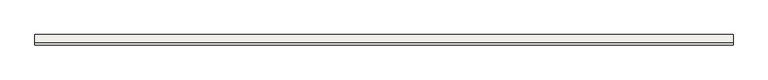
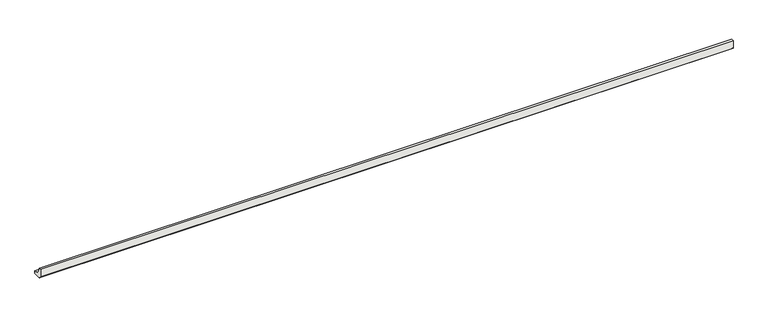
"""IFC4 building model written with IfcOpenShell, lengths in millimetres: slab geometry, ROSA GRES_112 : Pieza 112_Aqua_Plomo_Liso."""

import ifcopenshell
import ifcopenshell.guid

model = None  # the IFC model being written
_history = None  # IfcOwnerHistory: only IFC2X3 demands one
_inside = {}  # id of a spatial element -> (the spatial element, [elements in it])
_under = {}  # id of a project, library or spatial element -> (it, [spatial elements below it])
_declared = {}  # id of a project -> (the project, [libraries it declares])
_typed = {}  # id of a type object -> (the type object, [elements of that type])
_made_of = {}  # id of a material, layer set ... -> (it, [elements and type objects made of it])


def new_model(schema):
    """Start an empty IFC model of exactly this schema.

    Asked for "IFC4X3", IfcOpenShell would pick the latest addendum, in which some entities
    have other attributes; the version numbers below select the first issue.
    IFC2X3 requires an IfcOwnerHistory on every rooted entity: one is made here for all.
    """
    global model, _history
    if schema == "IFC4X3":
        model = ifcopenshell.file(schema_version=(4, 3, 0, 0))
    else:
        model = ifcopenshell.file(schema=schema)
    _inside.clear()
    _under.clear()
    _declared.clear()
    _typed.clear()
    _made_of.clear()
    _history = None
    if model.schema == "IFC2X3":
        org = make("IfcOrganization", Name="unknown")
        user = make(
            "IfcPersonAndOrganization",
            ThePerson=make("IfcPerson", FamilyName="unknown"),
            TheOrganization=org,
        )
        app = make(
            "IfcApplication",
            ApplicationDeveloper=org,
            Version="unknown",
            ApplicationFullName="unknown",
            ApplicationIdentifier="unknown",
        )
        _history = make(
            "IfcOwnerHistory",
            OwningUser=user,
            OwningApplication=app,
            ChangeAction="ADDED",
            CreationDate=0,
        )
    return model


def make(cls, **values):
    """One entity of the class cls with the attributes given. An attribute that is None is left unset."""
    return model.create_entity(
        cls, **{name: value for name, value in values.items() if value is not None}
    )


def rooted(cls, **values):
    """An entity with a GlobalId (a new one), such as an element, a storey or a relation."""
    return make(cls, GlobalId=ifcopenshell.guid.new(), OwnerHistory=_history, **values)


def si_unit(unit_type, name, prefix=None):
    """IfcSIUnit, for example si_unit("LENGTHUNIT", "METRE", prefix="MILLI")."""
    return make("IfcSIUnit", UnitType=unit_type, Prefix=prefix, Name=name)


def assignment(units):
    """IfcUnitAssignment: the units of a project."""
    return None if units is None else make("IfcUnitAssignment", Units=units)


def point(xyz):
    """IfcCartesianPoint."""
    return None if xyz is None else make("IfcCartesianPoint", Coordinates=xyz)


def direction(xyz):
    """IfcDirection."""
    return None if xyz is None else make("IfcDirection", DirectionRatios=xyz)


def frame(location, z_axis=None, x_axis=None):
    """IfcAxis2Placement3D, a coordinate frame: its origin and axes. An axis left out is left unset."""
    return make(
        "IfcAxis2Placement3D",
        Location=point(location),
        Axis=direction(z_axis),
        RefDirection=direction(x_axis),
    )


def frame_2d(location, x_axis=None):
    """IfcAxis2Placement2D, a coordinate frame in the plane: its origin and x axis."""
    return make(
        "IfcAxis2Placement2D", Location=point(location), RefDirection=direction(x_axis)
    )


def origin():
    """The frame at (0, 0, 0) with its axes left unset."""
    return frame((0.0, 0.0, 0.0))


def place(relative_to, where):
    """IfcLocalPlacement: puts the frame where relative to a parent placement (None: the world)."""
    return make(
        "IfcLocalPlacement", PlacementRelTo=relative_to, RelativePlacement=where
    )


def context(
    kind, dimensions, precision=None, world=None, true_north=None, identifier=None
):
    """IfcGeometricRepresentationContext, for example the 3D "Model" context."""
    return make(
        "IfcGeometricRepresentationContext",
        ContextIdentifier=identifier,
        ContextType=kind,
        CoordinateSpaceDimension=dimensions,
        Precision=precision,
        WorldCoordinateSystem=world,
        TrueNorth=true_north,
    )


def project(units=None, contexts=None):
    """IfcProject with its units and contexts."""
    return rooted(
        "IfcProject",
        Name="project",
        RepresentationContexts=contexts,
        UnitsInContext=assignment(units),
    )


def spatial(cls, under=None, at=None, **own):
    """A site, building, storey or space (cls), placed at a placement, below another one or the project."""
    s = rooted(cls, ObjectPlacement=at, **own)
    if under is not None:
        _under.setdefault(under.id(), (under, []))[1].append(s)
    return s


def polyline(points):
    """IfcPolyline through the points."""
    return make("IfcPolyline", Points=[point(p) for p in points])


def circle_curve(where, radius):
    """IfcCircle in the frame where."""
    return make("IfcCircle", Position=where, Radius=radius)


def trimmed(basis, trim1, trim2, sense, master):
    """IfcTrimmedCurve: the piece of a basis curve between two trims."""
    return make(
        "IfcTrimmedCurve",
        BasisCurve=basis,
        Trim1=trim1,
        Trim2=trim2,
        SenseAgreement=sense,
        MasterRepresentation=master,
    )


def segment(curve, same_sense, transition):
    """IfcCompositeCurveSegment."""
    return make(
        "IfcCompositeCurveSegment",
        Transition=transition,
        SameSense=same_sense,
        ParentCurve=curve,
    )


def composite_curve(segments, self_intersect=None):
    """IfcCompositeCurve: segments joined end to end."""
    return make("IfcCompositeCurve", Segments=segments, SelfIntersect=self_intersect)


def outline(outer, holes=None, kind="AREA"):
    """IfcArbitraryClosedProfileDef: a profile drawn as a closed curve; with holes, ...WithVoids."""
    if holes is None:
        return make("IfcArbitraryClosedProfileDef", ProfileType=kind, OuterCurve=outer)
    return make(
        "IfcArbitraryProfileDefWithVoids",
        ProfileType=kind,
        OuterCurve=outer,
        InnerCurves=holes,
    )


def extrude(swept, where, along, depth):
    """IfcExtrudedAreaSolid: the profile swept, set in the frame where, extruded along a direction by depth."""
    return make(
        "IfcExtrudedAreaSolid",
        SweptArea=swept,
        Position=where,
        ExtrudedDirection=direction(along),
        Depth=depth,
    )


def shape(context_of_items, identifier, shape_type, items):
    """IfcShapeRepresentation: the items that make up one representation, for example the "Body"."""
    return make(
        "IfcShapeRepresentation",
        ContextOfItems=context_of_items,
        RepresentationIdentifier=identifier,
        RepresentationType=shape_type,
        Items=items,
    )


def source(mapping_origin, context_of_items, identifier, shape_type, items):
    """IfcRepresentationMap: a shape defined once, which mapped items show again and again."""
    return make(
        "IfcRepresentationMap",
        MappingOrigin=mapping_origin,
        MappedRepresentation=shape(context_of_items, identifier, shape_type, items),
    )


def transform(
    local_origin,
    x_axis=None,
    y_axis=None,
    z_axis=None,
    scale=None,
    scale2=None,
    scale3=None,
    uniform=True,
):
    """IfcCartesianTransformationOperator3D, or its non-uniform kind. x_axis, y_axis, z_axis: its Axis1, 2, 3."""
    if uniform:
        return make(
            "IfcCartesianTransformationOperator3D",
            Axis1=direction(x_axis),
            Axis2=direction(y_axis),
            LocalOrigin=point(local_origin),
            Scale=scale,
            Axis3=direction(z_axis),
        )
    return make(
        "IfcCartesianTransformationOperator3DnonUniform",
        Axis1=direction(x_axis),
        Axis2=direction(y_axis),
        LocalOrigin=point(local_origin),
        Scale=scale,
        Axis3=direction(z_axis),
        Scale2=scale2,
        Scale3=scale3,
    )


def mapped(mapping_source, mapping_target):
    """IfcMappedItem: shows the shape of a source again, moved by a transform."""
    return make(
        "IfcMappedItem", MappingSource=mapping_source, MappingTarget=mapping_target
    )


def made_of(thing, what):
    """Note that an element or type object is made of a material, layer set ...; save() writes the relation."""
    if what is not None:
        _made_of.setdefault(what.id(), (what, []))[1].append(thing)
    return thing


def element(
    cls,
    number,
    at=None,
    inside=None,
    cuts=None,
    type_object=None,
    material=None,
    context=None,
    identifier="Body",
    shape_type=None,
    held_by="IfcProductDefinitionShape",
    body=None,
    shapes=None,
    **own,
):
    """One element of the class cls, such as IfcWall. Its Tag is "e" and its number.

    at: its placement. inside: the storey or other place that contains it. cuts: it is an
    opening in that element (IfcRelVoidsElement). A single representation is given by context,
    identifier, shape_type and body (its items); several are given by shapes. held_by: the class
    of the entity that holds the representations. save() writes the other relations.
    """
    e = rooted(cls, Tag="e%d" % number, ObjectPlacement=at, **own)
    if body is not None:
        shapes = [shape(context, identifier, shape_type, body)]
    if shapes is not None:
        e.Representation = make(held_by, Representations=shapes)
    if inside is not None:
        _inside.setdefault(inside.id(), (inside, []))[1].append(e)
    if cuts is not None:
        rooted(
            "IfcRelVoidsElement", RelatingBuildingElement=cuts, RelatedOpeningElement=e
        )
    if type_object is not None:
        _typed.setdefault(type_object.id(), (type_object, []))[1].append(e)
    return made_of(e, material)


def aggregate(whole, parts):
    """IfcRelAggregates: a whole, such as a stair, and the parts it consists of."""
    return rooted("IfcRelAggregates", RelatingObject=whole, RelatedObjects=parts)


def save(model, path):
    """Write the relations noted so far, then the file.

    IfcRelAggregates (storeys below a building ...), IfcRelContainedInSpatialStructure (elements
    in a storey), IfcRelDefinesByType, IfcRelAssociatesMaterial and IfcRelDeclares: one each for
    every whole, place, type object, material and project.
    """
    for whole, parts in _under.values():
        aggregate(whole, parts)
    for where, things in _inside.values():
        rooted(
            "IfcRelContainedInSpatialStructure",
            RelatedElements=things,
            RelatingStructure=where,
        )
    for kind, things in _typed.values():
        rooted("IfcRelDefinesByType", RelatedObjects=things, RelatingType=kind)
    for what, things in _made_of.values():
        rooted("IfcRelAssociatesMaterial", RelatedObjects=things, RelatingMaterial=what)
    for by, libraries in _declared.values():
        rooted("IfcRelDeclares", RelatingContext=by, RelatedDefinitions=libraries)
    model.write(path)


def slab_f88066db(model_context):
    return source(origin(), model_context, "Body", "SweptSolid", [
        extrude(outline(composite_curve([segment(polyline([(0.0, 8.7114978), (0.0, 40.0), (9.9734114, 40.0)]), True, "CONTINUOUS"), segment(trimmed(circle_curve(frame_2d((39.9955547, 39.9955547)), 30.0221435), [point((9.9734114, 40.0))], [point((40.0, 9.9734114))], True, "CARTESIAN"), True, "CONTINUOUS"), segment(polyline([(40.0, 9.9734114), (40.0, 0.0), (8.7114978, 0.0), (0.0, 8.7114978)]), True, "CONTINUOUS")], self_intersect=False)), frame((0.0, 0.0, 0.0), z_axis=(1.0, 0.0, 0.0), x_axis=(0.0, 1.0, 0.0)), (0.0, 0.0, 1.0), 2741.5334371),
    ])


if __name__ == "__main__":
    model = new_model("IFC4")
    model_context = context("Model", 3, world=origin())
    ifc_project = project(units=[si_unit("LENGTHUNIT", "METRE", prefix="MILLI")], contexts=[model_context])
    site = spatial("IfcSite", under=ifc_project)
    building = spatial("IfcBuilding", under=site)
    placement = place(None, origin())
    slab_shape = slab_f88066db(model_context)
    element("IfcSlab", 1, ObjectType="ROSA GRES_112 : Pieza 112_Aqua_Plomo_Liso", at=placement, inside=building, context=model_context, shape_type="MappedRepresentation", body=[
        mapped(slab_shape, transform((0.0, 0.0, 0.0), x_axis=(1.0, 0.0, 0.0), y_axis=(0.0, 1.0, 0.0), z_axis=(0.0, 0.0, 1.0))),
    ])
    save(model, "model.ifc")
